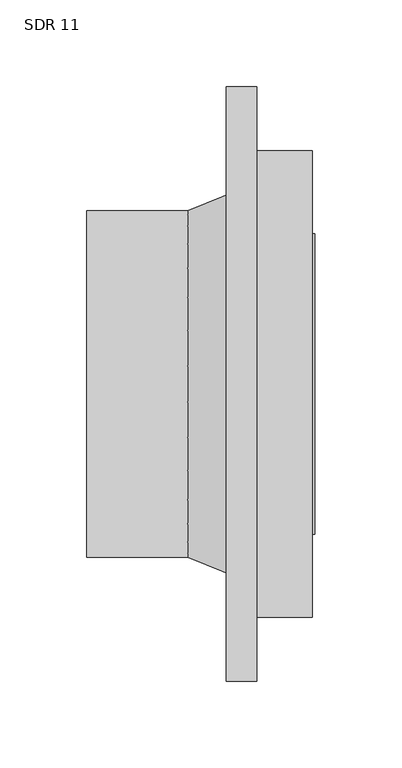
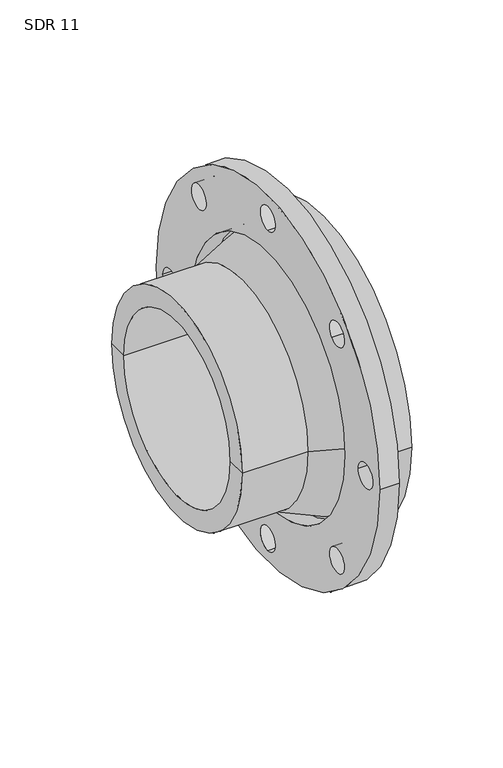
"""IFC4 building model written with IfcOpenShell, lengths in millimetres: valve geometry, Aquatherm - Flange Adapter Butt-Weld : SDR 11."""

from ifc_helpers import new_model, si_unit, point, frame, frame_2d, origin, origin_2d, place, context, project, spatial, polyline, circle_curve, trimmed, segment, composite_curve, outline, extrude, source, transform, mapped, element, save
from ifc_brep_helpers import plane_surface, cylinder_surface, revolved_surface, advanced_brep


def sdr_11_ab2b2637(model_context):
    return source(origin(), model_context, "Body", "SolidModel", [
        extrude(outline(composite_curve([segment(trimmed(circle_curve(origin_2d(), 171.45), [point((-171.45, 0.0))], [point((171.45, 0.0))], False, "CARTESIAN"), True, "CONTINUOUS"), segment(trimmed(circle_curve(origin_2d(), 171.45), [point((171.45, 0.0))], [point((-171.45, 0.0))], False, "CARTESIAN"), True, "CONTINUOUS")], self_intersect=False), holes=[composite_curve([segment(trimmed(circle_curve(origin_2d(), 118.237), [point((-118.237, 0.0))], [point((118.237, 0.0))], True, "CARTESIAN"), True, "CONTINUOUS"), segment(trimmed(circle_curve(origin_2d(), 118.237), [point((118.237, 0.0))], [point((-118.237, 0.0))], True, "CARTESIAN"), True, "CONTINUOUS")], self_intersect=False), composite_curve([segment(trimmed(circle_curve(frame_2d((149.86, 0.0)), 11.176), [point((138.684, 0.0))], [point((161.036, 0.0))], True, "CARTESIAN"), True, "CONTINUOUS"), segment(trimmed(circle_curve(frame_2d((149.86, 0.0)), 11.176), [point((161.036, 0.0))], [point((138.684, 0.0))], True, "CARTESIAN"), True, "CONTINUOUS")], self_intersect=False), composite_curve([segment(trimmed(circle_curve(frame_2d((105.9670222, -105.9670222)), 11.176), [point((98.0643968, -98.0643968))], [point((113.8696476, -113.8696476))], True, "CARTESIAN"), True, "CONTINUOUS"), segment(trimmed(circle_curve(frame_2d((105.9670222, -105.9670222)), 11.176), [point((113.8696476, -113.8696476))], [point((98.0643968, -98.0643968))], True, "CARTESIAN"), True, "CONTINUOUS")], self_intersect=False), composite_curve([segment(trimmed(circle_curve(frame_2d((105.9670222, 105.9670222)), 11.176), [point((98.0643968, 98.0643968))], [point((113.8696476, 113.8696476))], True, "CARTESIAN"), True, "CONTINUOUS"), segment(trimmed(circle_curve(frame_2d((105.9670222, 105.9670222)), 11.176), [point((113.8696476, 113.8696476))], [point((98.0643968, 98.0643968))], True, "CARTESIAN"), True, "CONTINUOUS")], self_intersect=False), composite_curve([segment(trimmed(circle_curve(frame_2d((0.0, 149.86)), 11.176), [point((0.0, 138.684))], [point((0.0, 161.036))], True, "CARTESIAN"), True, "CONTINUOUS"), segment(trimmed(circle_curve(frame_2d((0.0, 149.86)), 11.176), [point((0.0, 161.036))], [point((0.0, 138.684))], True, "CARTESIAN"), True, "CONTINUOUS")], self_intersect=False), composite_curve([segment(trimmed(circle_curve(frame_2d((-105.9670222, 105.9670222)), 11.176), [point((-98.0643968, 98.0643968))], [point((-113.8696476, 113.8696476))], True, "CARTESIAN"), True, "CONTINUOUS"), segment(trimmed(circle_curve(frame_2d((-105.9670222, 105.9670222)), 11.176), [point((-113.8696476, 113.8696476))], [point((-98.0643968, 98.0643968))], True, "CARTESIAN"), True, "CONTINUOUS")], self_intersect=False), composite_curve([segment(trimmed(circle_curve(frame_2d((-149.86, 0.0)), 11.176), [point((-138.684, 0.0))], [point((-161.036, 0.0))], True, "CARTESIAN"), True, "CONTINUOUS"), segment(trimmed(circle_curve(frame_2d((-149.86, 0.0)), 11.176), [point((-161.036, 0.0))], [point((-138.684, 0.0))], True, "CARTESIAN"), True, "CONTINUOUS")], self_intersect=False), composite_curve([segment(trimmed(circle_curve(frame_2d((-105.9670222, -105.9670222)), 11.176), [point((-98.0643968, -98.0643968))], [point((-113.8696476, -113.8696476))], True, "CARTESIAN"), True, "CONTINUOUS"), segment(trimmed(circle_curve(frame_2d((-105.9670222, -105.9670222)), 11.176), [point((-113.8696476, -113.8696476))], [point((-98.0643968, -98.0643968))], True, "CARTESIAN"), True, "CONTINUOUS")], self_intersect=False), composite_curve([segment(trimmed(circle_curve(frame_2d((0.0, -149.86)), 11.176), [point((0.0, -138.684))], [point((0.0, -161.036))], True, "CARTESIAN"), True, "CONTINUOUS"), segment(trimmed(circle_curve(frame_2d((0.0, -149.86)), 11.176), [point((0.0, -161.036))], [point((0.0, -138.684))], True, "CARTESIAN"), True, "CONTINUOUS")], self_intersect=False)]), frame((-17.526, 0.0, 0.0), z_axis=(1.0, 0.0, 0.0), x_axis=(0.0, 1.0, 0.0)), (0.0, 0.0, 1.0), 17.526),
        advanced_brep(
        [(32.004, 134.62, 0.0), (32.004, -134.62, 0.0), (0.0, -134.62, 0.0), (0.0, 134.62, 0.0), (33.5915, 81.661, 0.0), (33.5915, -81.661, 0.0), (33.5915, -86.741, 0.0), (33.5915, 86.741, 0.0), (-98.044, 81.661, 0.0), (-98.044, -81.661, 0.0), (-98.044, 99.949, 0.0), (-98.044, -99.949, 0.0), (-39.878, 99.949, 0.0), (-39.878, -99.949, 0.0), (0.0, -115.951, 0.0), (0.0, 115.951, 0.0), (32.004, 86.741, 0.0), (32.004, -86.741, 0.0)],
        [
            (0, 1, circle_curve(frame((32.004, 0.0, 0.0), z_axis=(-1.0, 0.0, 0.0), x_axis=(0.0, -1.0, 0.0)), 134.62)),
            (1, 2),
            (2, 3, circle_curve(frame((0.0, 0.0, 0.0), z_axis=(1.0, 0.0, 0.0), x_axis=(0.0, -1.0, 0.0)), 134.62)),
            (3, 0),
            (1, 0, circle_curve(frame((32.004, 0.0, 0.0), z_axis=(-1.0, 0.0, 0.0), x_axis=(0.0, -1.0, 0.0)), 134.62)),
            (3, 2, circle_curve(frame((0.0, 0.0, 0.0), z_axis=(1.0, 0.0, 0.0), x_axis=(0.0, -1.0, 0.0)), 134.62)),
            (4, 5, circle_curve(frame((33.5915, 0.0, 0.0), z_axis=(-1.0, 0.0, 0.0), x_axis=(0.0, -1.0, 0.0)), 81.661)),
            (5, 6),
            (6, 7, circle_curve(frame((33.5915, 0.0, 0.0), z_axis=(1.0, 0.0, 0.0), x_axis=(0.0, -1.0, 0.0)), 86.741)),
            (7, 4),
            (5, 4, circle_curve(frame((33.5915, 0.0, 0.0), z_axis=(-1.0, 0.0, 0.0), x_axis=(0.0, -1.0, 0.0)), 81.661)),
            (7, 6, circle_curve(frame((33.5915, 0.0, 0.0), z_axis=(1.0, 0.0, 0.0), x_axis=(0.0, -1.0, 0.0)), 86.741)),
            (8, 9, circle_curve(frame((-98.044, 0.0, 0.0), z_axis=(-1.0, 0.0, 0.0), x_axis=(0.0, -1.0, 0.0)), 81.661)),
            (9, 5),
            (4, 8),
            (9, 8, circle_curve(frame((-98.044, 0.0, 0.0), z_axis=(-1.0, 0.0, 0.0), x_axis=(0.0, -1.0, 0.0)), 81.661)),
            (10, 11, circle_curve(frame((-98.044, 0.0, 0.0), z_axis=(-1.0, 0.0, 0.0), x_axis=(0.0, -1.0, 0.0)), 99.949)),
            (11, 9),
            (8, 10),
            (11, 10, circle_curve(frame((-98.044, 0.0, 0.0), z_axis=(-1.0, 0.0, 0.0), x_axis=(0.0, -1.0, 0.0)), 99.949)),
            (12, 13, circle_curve(frame((-39.878, 0.0, 0.0), z_axis=(-1.0, 0.0, 0.0), x_axis=(0.0, -1.0, 0.0)), 99.949)),
            (13, 11),
            (10, 12),
            (13, 12, circle_curve(frame((-39.878, 0.0, 0.0), z_axis=(-1.0, 0.0, 0.0), x_axis=(0.0, -1.0, 0.0)), 99.949)),
            (2, 14),
            (14, 15, circle_curve(frame((0.0, 0.0, 0.0), z_axis=(1.0, 0.0, 0.0), x_axis=(0.0, -1.0, 0.0)), 115.951)),
            (15, 3),
            (15, 14, circle_curve(frame((0.0, 0.0, 0.0), z_axis=(1.0, 0.0, 0.0), x_axis=(0.0, -1.0, 0.0)), 115.951)),
            (16, 17, circle_curve(frame((32.004, 0.0, 0.0), z_axis=(-1.0, 0.0, 0.0), x_axis=(0.0, -1.0, 0.0)), 86.741)),
            (17, 1),
            (0, 16),
            (17, 16, circle_curve(frame((32.004, 0.0, 0.0), z_axis=(-1.0, 0.0, 0.0), x_axis=(0.0, -1.0, 0.0)), 86.741)),
            (6, 17),
            (16, 7),
            (14, 13),
            (12, 15),
        ],
        [
            cylinder_surface(frame((1472.6429321, 0.0, 0.0), z_axis=(1.0, 0.0, 0.0), x_axis=(0.0, -1.0, 0.0)), 134.62),
            plane_surface(frame((33.5915, 0.0, 0.0), z_axis=(1.0, 0.0, 0.0), x_axis=(0.0, -1.0, 0.0))),
            revolved_surface(polyline([(33.591499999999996, -81.661, 0.0), (-98.0440000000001, -81.661, 0.0)]), (1472.6429321, 0.0, 0.0), (1.0, 0.0, 0.0)),
            plane_surface(frame((-98.044, 0.0, 0.0), z_axis=(-1.0, 0.0, 0.0), x_axis=(0.0, -1.0, 0.0))),
            cylinder_surface(frame((1472.6429321, 0.0, 0.0), z_axis=(1.0, 0.0, 0.0), x_axis=(0.0, -1.0, 0.0)), 99.949),
            plane_surface(frame((0.0, 0.0, 0.0), z_axis=(-1.0, 0.0, 0.0), x_axis=(0.0, -1.0, 0.0))),
            plane_surface(frame((32.004, 0.0, 0.0), z_axis=(1.0, 0.0, 0.0), x_axis=(0.0, -1.0, 0.0))),
            cylinder_surface(frame((1472.6429321, 0.0, 0.0), z_axis=(1.0, 0.0, 0.0), x_axis=(0.0, -1.0, 0.0)), 86.741),
            revolved_surface(polyline([(-39.878, -99.949, 0.0), (0.0, -115.951, 0.0)]), (1472.6429321, 0.0, 0.0), (1.0, 0.0, 0.0)),
        ],
        [
            (0, [[1, 2, 3, 4]]),
            (0, [[5, -4, 6, -2]]),
            (1, [[7, 8, 9, 10]]),
            (1, [[11, -10, 12, -8]]),
            (2, [[13, 14, -7, 15]]),
            (2, [[16, -15, -11, -14]]),
            (3, [[17, 18, -13, 19]]),
            (3, [[20, -19, -16, -18]]),
            (4, [[21, 22, -17, 23]]),
            (4, [[24, -23, -20, -22]]),
            (5, [[-3, 25, 26, 27]]),
            (5, [[-6, -27, 28, -25]]),
            (6, [[29, 30, -1, 31]]),
            (6, [[32, -31, -5, -30]]),
            (7, [[-9, 33, -29, 34]]),
            (7, [[-12, -34, -32, -33]]),
            (8, [[-26, 35, -21, 36]]),
            (8, [[-28, -36, -24, -35]]),
        ],
    ),
    ])


if __name__ == "__main__":
    model = new_model("IFC4")
    model_context = context("Model", 3, world=origin())
    ifc_project = project(units=[si_unit("LENGTHUNIT", "METRE", prefix="MILLI")], contexts=[model_context])
    site = spatial("IfcSite", under=ifc_project)
    building = spatial("IfcBuilding", under=site)
    placement = place(None, origin())
    sdr_11_shape = sdr_11_ab2b2637(model_context)
    element("IfcValve", 1, ObjectType="Aquatherm - Flange Adapter Butt-Weld : SDR 11", at=placement, inside=building, context=model_context, shape_type="MappedRepresentation", body=[
        mapped(sdr_11_shape, transform((0.0, 0.0, 0.0), x_axis=(1.0, 0.0, 0.0), y_axis=(0.0, 1.0, 0.0), z_axis=(0.0, 0.0, 1.0))),
    ])
    save(model, "model.ifc")
